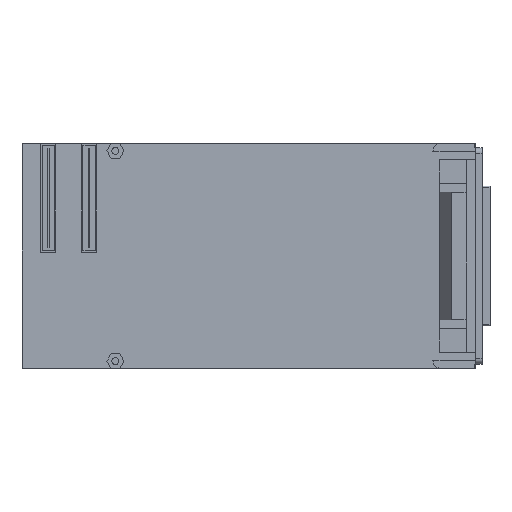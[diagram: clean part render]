
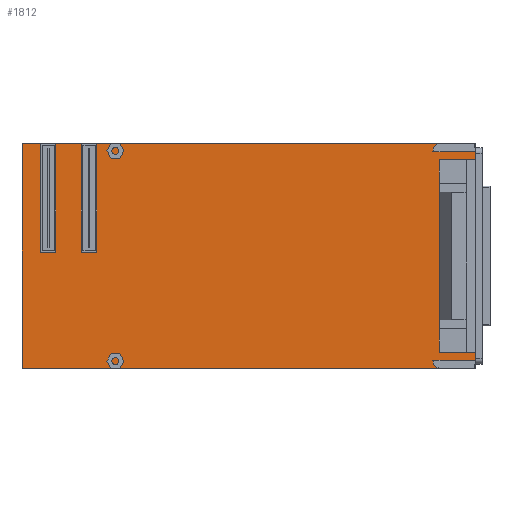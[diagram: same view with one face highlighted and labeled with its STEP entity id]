
A CAD part, top view. The second image highlights one B-rep face of the part: STEP entity #1812.
In plain terms, the highlighted planar face has unit normal (0, 0, 1).
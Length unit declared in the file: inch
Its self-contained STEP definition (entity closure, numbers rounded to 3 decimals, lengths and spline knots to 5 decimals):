
#16 = AXIS2_PLACEMENT_3D ( 'NONE', #2836, #173, #3042 ) ;
#41 = CARTESIAN_POINT ( 'NONE',  ( 2.9375, 1.4575, 0.0675 ) ) ;
#161 = EDGE_CURVE ( 'NONE', #2616, #628, #590, .T. ) ;
#173 = DIRECTION ( 'NONE',  ( 0., 0., 1. ) ) ;
#326 = DIRECTION ( 'NONE',  ( -1., 0., 0. ) ) ;
#360 = VECTOR ( 'NONE', #542, 39.37008 ) ;
#361 = CARTESIAN_POINT ( 'NONE',  ( -2.9375, -1.4575, 0.0675 ) ) ;
#419 = VECTOR ( 'NONE', #2386, 39.37008 ) ;
#482 = CARTESIAN_POINT ( 'NONE',  ( 2.9375, 1.4575, 0.0675 ) ) ;
#518 = LINE ( 'NONE', #41, #360 ) ;
#542 = DIRECTION ( 'NONE',  ( 0., 1., 0. ) ) ;
#590 = LINE ( 'NONE', #2273, #1567 ) ;
#617 = CARTESIAN_POINT ( 'NONE',  ( -2.9375, -1.4575, 0.0675 ) ) ;
#628 = VERTEX_POINT ( 'NONE', #2314 ) ;
#864 = DIRECTION ( 'NONE',  ( 1., 0., 0. ) ) ;
#953 = LINE ( 'NONE', #2182, #419 ) ;
#1294 = ORIENTED_EDGE ( 'NONE', *, *, #1683, .T. ) ;
#1338 = EDGE_LOOP ( 'NONE', ( #1294, #3049, #3109, #3105 ) ) ;
#1378 = VERTEX_POINT ( 'NONE', #617 ) ;
#1445 = EDGE_CURVE ( 'NONE', #1378, #3091, #3059, .T. ) ;
#1567 = VECTOR ( 'NONE', #326, 39.37008 ) ;
#1577 = CARTESIAN_POINT ( 'NONE',  ( 2.9375, -1.4575, 0.0675 ) ) ;
#1683 = EDGE_CURVE ( 'NONE', #3091, #2616, #518, .T. ) ;
#1812 = ADVANCED_FACE ( 'NONE', ( #2579 ), #2351, .T. ) ;
#2082 = EDGE_CURVE ( 'NONE', #628, #1378, #953, .T. ) ;
#2182 = CARTESIAN_POINT ( 'NONE',  ( -2.9375, 1.4575, 0.0675 ) ) ;
#2198 = VECTOR ( 'NONE', #864, 39.37008 ) ;
#2273 = CARTESIAN_POINT ( 'NONE',  ( -2.9375, 1.4575, 0.0675 ) ) ;
#2314 = CARTESIAN_POINT ( 'NONE',  ( -2.9375, 1.4575, 0.0675 ) ) ;
#2351 = PLANE ( 'NONE',  #16 ) ;
#2386 = DIRECTION ( 'NONE',  ( 0., -1., 0. ) ) ;
#2579 = FACE_OUTER_BOUND ( 'NONE', #1338, .T. ) ;
#2616 = VERTEX_POINT ( 'NONE', #482 ) ;
#2836 = CARTESIAN_POINT ( 'NONE',  ( 0., 0., 0.0675 ) ) ;
#3042 = DIRECTION ( 'NONE',  ( 1., 0., 0. ) ) ;
#3049 = ORIENTED_EDGE ( 'NONE', *, *, #161, .T. ) ;
#3059 = LINE ( 'NONE', #361, #2198 ) ;
#3091 = VERTEX_POINT ( 'NONE', #1577 ) ;
#3105 = ORIENTED_EDGE ( 'NONE', *, *, #1445, .T. ) ;
#3109 = ORIENTED_EDGE ( 'NONE', *, *, #2082, .T. ) ;
